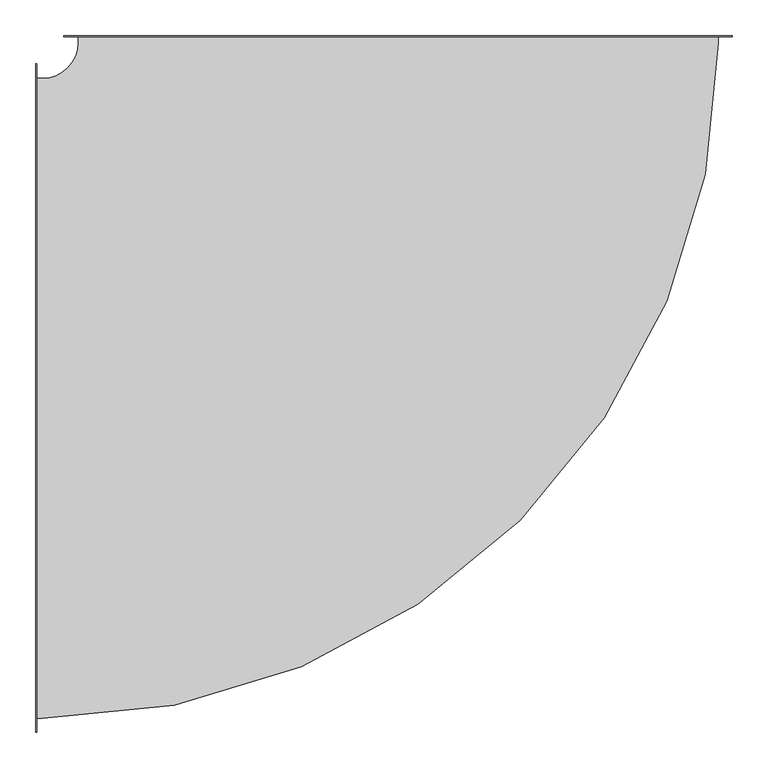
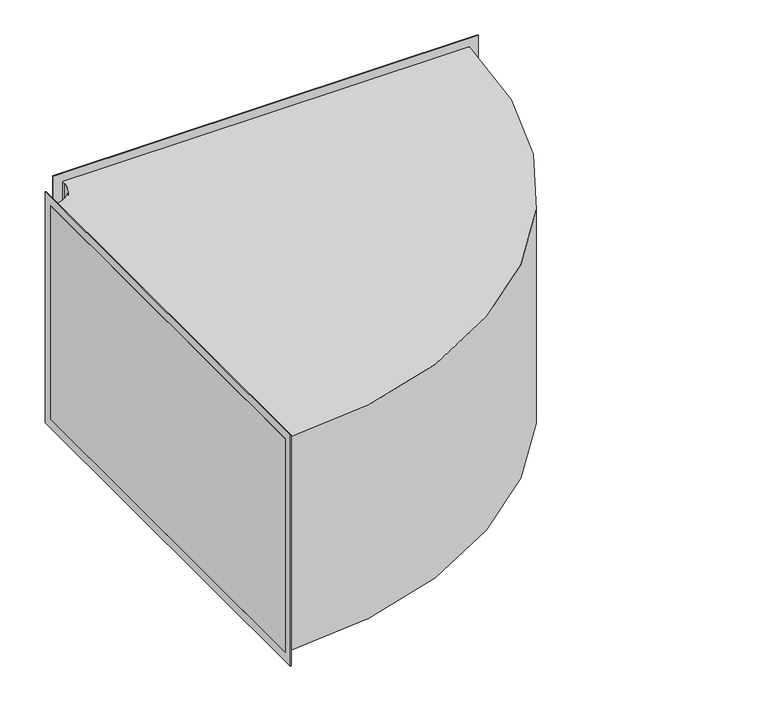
"""IFC4 building model written with IfcOpenShell, lengths in millimetres: duct fitting geometry, ADSK_ОтводВоздуховодов_Прямоугольный : Стандарт."""

import ifcopenshell
import ifcopenshell.guid

model = None  # the IFC model being written
_history = None  # IfcOwnerHistory: only IFC2X3 demands one
_inside = {}  # id of a spatial element -> (the spatial element, [elements in it])
_under = {}  # id of a project, library or spatial element -> (it, [spatial elements below it])
_declared = {}  # id of a project -> (the project, [libraries it declares])
_typed = {}  # id of a type object -> (the type object, [elements of that type])
_made_of = {}  # id of a material, layer set ... -> (it, [elements and type objects made of it])


def new_model(schema):
    """Start an empty IFC model of exactly this schema.

    Asked for "IFC4X3", IfcOpenShell would pick the latest addendum, in which some entities
    have other attributes; the version numbers below select the first issue.
    IFC2X3 requires an IfcOwnerHistory on every rooted entity: one is made here for all.
    """
    global model, _history
    if schema == "IFC4X3":
        model = ifcopenshell.file(schema_version=(4, 3, 0, 0))
    else:
        model = ifcopenshell.file(schema=schema)
    _inside.clear()
    _under.clear()
    _declared.clear()
    _typed.clear()
    _made_of.clear()
    _history = None
    if model.schema == "IFC2X3":
        org = make("IfcOrganization", Name="unknown")
        user = make(
            "IfcPersonAndOrganization",
            ThePerson=make("IfcPerson", FamilyName="unknown"),
            TheOrganization=org,
        )
        app = make(
            "IfcApplication",
            ApplicationDeveloper=org,
            Version="unknown",
            ApplicationFullName="unknown",
            ApplicationIdentifier="unknown",
        )
        _history = make(
            "IfcOwnerHistory",
            OwningUser=user,
            OwningApplication=app,
            ChangeAction="ADDED",
            CreationDate=0,
        )
    return model


def make(cls, **values):
    """One entity of the class cls with the attributes given. An attribute that is None is left unset."""
    return model.create_entity(
        cls, **{name: value for name, value in values.items() if value is not None}
    )


def rooted(cls, **values):
    """An entity with a GlobalId (a new one), such as an element, a storey or a relation."""
    return make(cls, GlobalId=ifcopenshell.guid.new(), OwnerHistory=_history, **values)


def si_unit(unit_type, name, prefix=None):
    """IfcSIUnit, for example si_unit("LENGTHUNIT", "METRE", prefix="MILLI")."""
    return make("IfcSIUnit", UnitType=unit_type, Prefix=prefix, Name=name)


def assignment(units):
    """IfcUnitAssignment: the units of a project."""
    return None if units is None else make("IfcUnitAssignment", Units=units)


def point(xyz):
    """IfcCartesianPoint."""
    return None if xyz is None else make("IfcCartesianPoint", Coordinates=xyz)


def direction(xyz):
    """IfcDirection."""
    return None if xyz is None else make("IfcDirection", DirectionRatios=xyz)


def frame(location, z_axis=None, x_axis=None):
    """IfcAxis2Placement3D, a coordinate frame: its origin and axes. An axis left out is left unset."""
    return make(
        "IfcAxis2Placement3D",
        Location=point(location),
        Axis=direction(z_axis),
        RefDirection=direction(x_axis),
    )


def frame_2d(location, x_axis=None):
    """IfcAxis2Placement2D, a coordinate frame in the plane: its origin and x axis."""
    return make(
        "IfcAxis2Placement2D", Location=point(location), RefDirection=direction(x_axis)
    )


def origin():
    """The frame at (0, 0, 0) with its axes left unset."""
    return frame((0.0, 0.0, 0.0))


def place(relative_to, where):
    """IfcLocalPlacement: puts the frame where relative to a parent placement (None: the world)."""
    return make(
        "IfcLocalPlacement", PlacementRelTo=relative_to, RelativePlacement=where
    )


def context(
    kind, dimensions, precision=None, world=None, true_north=None, identifier=None
):
    """IfcGeometricRepresentationContext, for example the 3D "Model" context."""
    return make(
        "IfcGeometricRepresentationContext",
        ContextIdentifier=identifier,
        ContextType=kind,
        CoordinateSpaceDimension=dimensions,
        Precision=precision,
        WorldCoordinateSystem=world,
        TrueNorth=true_north,
    )


def project(units=None, contexts=None):
    """IfcProject with its units and contexts."""
    return rooted(
        "IfcProject",
        Name="project",
        RepresentationContexts=contexts,
        UnitsInContext=assignment(units),
    )


def spatial(cls, under=None, at=None, **own):
    """A site, building, storey or space (cls), placed at a placement, below another one or the project."""
    s = rooted(cls, ObjectPlacement=at, **own)
    if under is not None:
        _under.setdefault(under.id(), (under, []))[1].append(s)
    return s


def polyline(points):
    """IfcPolyline through the points."""
    return make("IfcPolyline", Points=[point(p) for p in points])


def circle_curve(where, radius):
    """IfcCircle in the frame where."""
    return make("IfcCircle", Position=where, Radius=radius)


def trimmed(basis, trim1, trim2, sense, master):
    """IfcTrimmedCurve: the piece of a basis curve between two trims."""
    return make(
        "IfcTrimmedCurve",
        BasisCurve=basis,
        Trim1=trim1,
        Trim2=trim2,
        SenseAgreement=sense,
        MasterRepresentation=master,
    )


def segment(curve, same_sense, transition):
    """IfcCompositeCurveSegment."""
    return make(
        "IfcCompositeCurveSegment",
        Transition=transition,
        SameSense=same_sense,
        ParentCurve=curve,
    )


def composite_curve(segments, self_intersect=None):
    """IfcCompositeCurve: segments joined end to end."""
    return make("IfcCompositeCurve", Segments=segments, SelfIntersect=self_intersect)


def outline(outer, holes=None, kind="AREA"):
    """IfcArbitraryClosedProfileDef: a profile drawn as a closed curve; with holes, ...WithVoids."""
    if holes is None:
        return make("IfcArbitraryClosedProfileDef", ProfileType=kind, OuterCurve=outer)
    return make(
        "IfcArbitraryProfileDefWithVoids",
        ProfileType=kind,
        OuterCurve=outer,
        InnerCurves=holes,
    )


def extrude(swept, where, along, depth):
    """IfcExtrudedAreaSolid: the profile swept, set in the frame where, extruded along a direction by depth."""
    return make(
        "IfcExtrudedAreaSolid",
        SweptArea=swept,
        Position=where,
        ExtrudedDirection=direction(along),
        Depth=depth,
    )


def shape(context_of_items, identifier, shape_type, items):
    """IfcShapeRepresentation: the items that make up one representation, for example the "Body"."""
    return make(
        "IfcShapeRepresentation",
        ContextOfItems=context_of_items,
        RepresentationIdentifier=identifier,
        RepresentationType=shape_type,
        Items=items,
    )


def source(mapping_origin, context_of_items, identifier, shape_type, items):
    """IfcRepresentationMap: a shape defined once, which mapped items show again and again."""
    return make(
        "IfcRepresentationMap",
        MappingOrigin=mapping_origin,
        MappedRepresentation=shape(context_of_items, identifier, shape_type, items),
    )


def transform(
    local_origin,
    x_axis=None,
    y_axis=None,
    z_axis=None,
    scale=None,
    scale2=None,
    scale3=None,
    uniform=True,
):
    """IfcCartesianTransformationOperator3D, or its non-uniform kind. x_axis, y_axis, z_axis: its Axis1, 2, 3."""
    if uniform:
        return make(
            "IfcCartesianTransformationOperator3D",
            Axis1=direction(x_axis),
            Axis2=direction(y_axis),
            LocalOrigin=point(local_origin),
            Scale=scale,
            Axis3=direction(z_axis),
        )
    return make(
        "IfcCartesianTransformationOperator3DnonUniform",
        Axis1=direction(x_axis),
        Axis2=direction(y_axis),
        LocalOrigin=point(local_origin),
        Scale=scale,
        Axis3=direction(z_axis),
        Scale2=scale2,
        Scale3=scale3,
    )


def mapped(mapping_source, mapping_target):
    """IfcMappedItem: shows the shape of a source again, moved by a transform."""
    return make(
        "IfcMappedItem", MappingSource=mapping_source, MappingTarget=mapping_target
    )


def made_of(thing, what):
    """Note that an element or type object is made of a material, layer set ...; save() writes the relation."""
    if what is not None:
        _made_of.setdefault(what.id(), (what, []))[1].append(thing)
    return thing


def element(
    cls,
    number,
    at=None,
    inside=None,
    cuts=None,
    type_object=None,
    material=None,
    context=None,
    identifier="Body",
    shape_type=None,
    held_by="IfcProductDefinitionShape",
    body=None,
    shapes=None,
    **own,
):
    """One element of the class cls, such as IfcWall. Its Tag is "e" and its number.

    at: its placement. inside: the storey or other place that contains it. cuts: it is an
    opening in that element (IfcRelVoidsElement). A single representation is given by context,
    identifier, shape_type and body (its items); several are given by shapes. held_by: the class
    of the entity that holds the representations. save() writes the other relations.
    """
    e = rooted(cls, Tag="e%d" % number, ObjectPlacement=at, **own)
    if body is not None:
        shapes = [shape(context, identifier, shape_type, body)]
    if shapes is not None:
        e.Representation = make(held_by, Representations=shapes)
    if inside is not None:
        _inside.setdefault(inside.id(), (inside, []))[1].append(e)
    if cuts is not None:
        rooted(
            "IfcRelVoidsElement", RelatingBuildingElement=cuts, RelatedOpeningElement=e
        )
    if type_object is not None:
        _typed.setdefault(type_object.id(), (type_object, []))[1].append(e)
    return made_of(e, material)


def aggregate(whole, parts):
    """IfcRelAggregates: a whole, such as a stair, and the parts it consists of."""
    return rooted("IfcRelAggregates", RelatingObject=whole, RelatedObjects=parts)


def save(model, path):
    """Write the relations noted so far, then the file.

    IfcRelAggregates (storeys below a building ...), IfcRelContainedInSpatialStructure (elements
    in a storey), IfcRelDefinesByType, IfcRelAssociatesMaterial and IfcRelDeclares: one each for
    every whole, place, type object, material and project.
    """
    for whole, parts in _under.values():
        aggregate(whole, parts)
    for where, things in _inside.values():
        rooted(
            "IfcRelContainedInSpatialStructure",
            RelatedElements=things,
            RelatingStructure=where,
        )
    for kind, things in _typed.values():
        rooted("IfcRelDefinesByType", RelatedObjects=things, RelatingType=kind)
    for what, things in _made_of.values():
        rooted("IfcRelAssociatesMaterial", RelatedObjects=things, RelatingMaterial=what)
    for by, libraries in _declared.values():
        rooted("IfcRelDeclares", RelatingContext=by, RelatedDefinitions=libraries)
    model.write(path)


def duct_fitting_dfd5a86b(model_context):
    return source(origin(), model_context, "Body", "SweptSolid", [
        extrude(outline(composite_curve([segment(trimmed(circle_curve(frame_2d((-500.0, 500.0)), 50.0), [point((-500.0, 450.0))], [point((-450.0, 500.0))], True, "CARTESIAN"), True, "CONTINUOUS"), segment(polyline([(-450.0, 500.0), (-450.0, 510.0), (450.0, 510.0), (450.0, 500.0)]), True, "CONTINUOUS"), segment(trimmed(circle_curve(frame_2d((-500.0, 500.0)), 950.0), [point((450.0, 500.0))], [point((-500.0, -450.0))], False, "CARTESIAN"), True, "CONTINUOUS"), segment(polyline([(-500.0, -450.0), (-510.0, -450.0), (-510.0, 450.0), (-500.0, 450.0)]), True, "CONTINUOUS")], self_intersect=False)), frame((0.0, 0.0, -250.0), z_axis=(0.0, 0.0, 1.0), x_axis=(1.0, 0.0, 0.0)), (0.0, 0.0, 1.0), 500.0),
        extrude(outline(polyline([(-470.0, 270.0), (470.0, 270.0), (470.0, -270.0), (-470.0, -270.0), (-470.0, 270.0)]), holes=[polyline([(-450.0, 250.0), (-450.0, -250.0), (450.0, -250.0), (450.0, 250.0), (-450.0, 250.0)])]), frame((-510.0, 0.0, 0.0), z_axis=(1.0, 0.0, 0.0), x_axis=(0.0, 1.0, 0.0)), (0.0, 0.0, 1.0), 2.0),
        extrude(outline(polyline([(270.0, 470.0), (270.0, -470.0), (-270.0, -470.0), (-270.0, 470.0), (270.0, 470.0)]), holes=[polyline([(250.0, 450.0), (-250.0, 450.0), (-250.0, -450.0), (250.0, -450.0), (250.0, 450.0)])]), frame((0.0, 508.0, 0.0), z_axis=(0.0, 1.0, 0.0), x_axis=(0.0, 0.0, 1.0)), (0.0, 0.0, 1.0), 2.0),
    ])


if __name__ == "__main__":
    model = new_model("IFC4")
    model_context = context("Model", 3, world=origin())
    ifc_project = project(units=[si_unit("LENGTHUNIT", "METRE", prefix="MILLI")], contexts=[model_context])
    site = spatial("IfcSite", under=ifc_project)
    building = spatial("IfcBuilding", under=site)
    placement = place(None, origin())
    duct_fitting_shape = duct_fitting_dfd5a86b(model_context)
    element("IfcDuctFitting", 1, ObjectType="ADSK_ОтводВоздуховодов_Прямоугольный : Стандарт", at=placement, inside=building, context=model_context, shape_type="MappedRepresentation", body=[
        mapped(duct_fitting_shape, transform((0.0, 0.0, 0.0), x_axis=(1.0, 0.0, 0.0), y_axis=(0.0, 1.0, 0.0), z_axis=(0.0, 0.0, 1.0))),
    ])
    save(model, "model.ifc")
